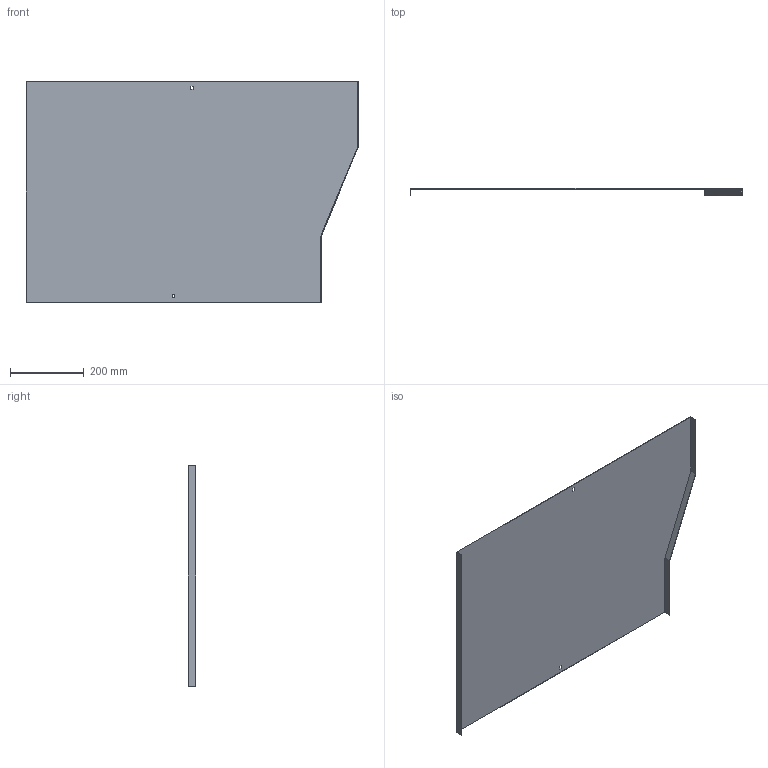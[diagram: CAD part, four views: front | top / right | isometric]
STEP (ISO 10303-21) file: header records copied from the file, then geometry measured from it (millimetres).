
FILE_DESCRIPTION (( 'STEP AP214' ), '1' );
FILE_NAME ('B2X22N8R900X.step', '2025-09-02T15:45:48', ( '' ), ( '' ), 'SwSTEP 2.0', 'SolidWorks 2023', '' );
FILE_SCHEMA (( 'AUTOMOTIVE_DESIGN' ));
Length unit declared in the file: millimetre
Products named in the file (1): B2X22N8R900X
Bounding box: 903 x 20 x 600 mm (x, y, z)
Volume: 801379.5 mm3; surface area: 1073099 mm2
Topology: 1 solids, 1 shells, 22 faces, 60 edges, 40 vertices
Faces by surface type: plane 22
Entity records: 715 total; most frequent: CARTESIAN_POINT 123, ORIENTED_EDGE 120, DIRECTION 106, LINE 60, EDGE_CURVE 60, VECTOR 60, VERTEX_POINT 40, EDGE_LOOP 26
